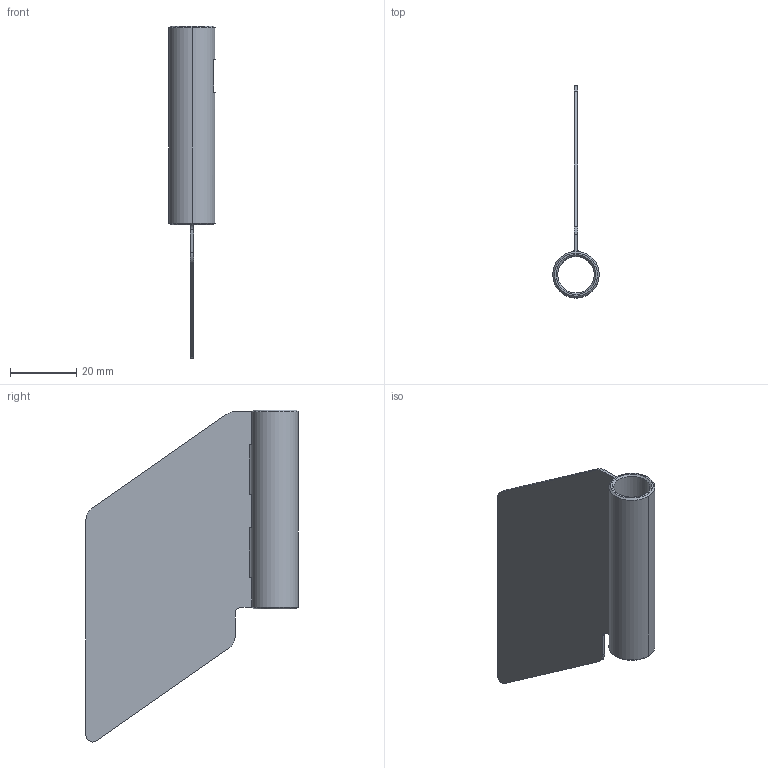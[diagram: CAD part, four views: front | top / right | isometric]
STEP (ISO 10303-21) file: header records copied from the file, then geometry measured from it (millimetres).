
FILE_DESCRIPTION(/* description */ (''),/* implementation_level */ '2;1');
FILE_NAME(/* name */ 'AC4-INOX.stp',/* time_stamp */ '2024-03-22T10:34:02+01:00',/* author */ ('filippo.guidetti'),/* organization */ (''),/* preprocessor_version */ 'ST-DEVELOPER v20',/* originating_system */ 'Autodesk Inventor 2024',/* authorisation */ '');
FILE_SCHEMA (('AUTOMOTIVE_DESIGN { 1 0 10303 214 3 1 1 }'));
Length unit declared in the file: millimetre
Products named in the file (1): AC4-INOX
Bounding box: 14 x 64 x 100.16 mm (x, y, z)
Volume: 6967.8 mm3; surface area: 11974.7 mm2
Topology: 1 solids, 1 shells, 45 faces, 127 edges, 80 vertices
Faces by surface type: plane 28, cylinder 13, cone 4
Full cylindrical faces by diameter (mm): 5.5 x1, 11 x1
Entity records: 1622 total; most frequent: CARTESIAN_POINT 298, DIRECTION 257, ORIENTED_EDGE 254, EDGE_CURVE 127, AXIS2_PLACEMENT_3D 89, VERTEX_POINT 80, LINE 79, VECTOR 79
